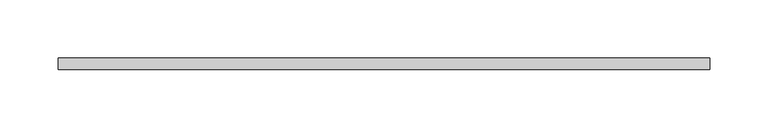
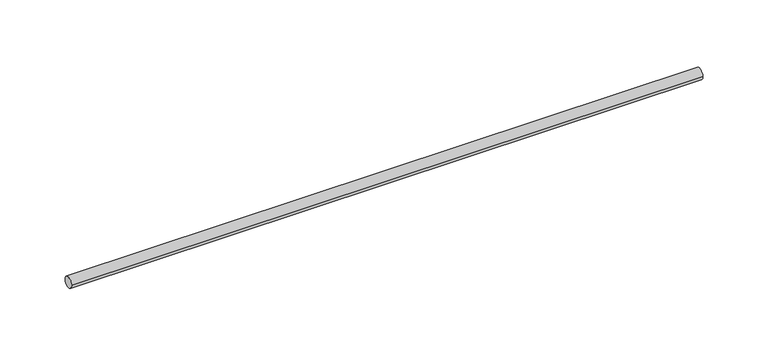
"""IFC4 building model written with IfcOpenShell, lengths in millimetres: valve geometry, Superfix Threaded Rod : Threaded Rod  Extra + -  M10 x 100."""

import ifcopenshell
import ifcopenshell.guid

model = None  # the IFC model being written
_history = None  # IfcOwnerHistory: only IFC2X3 demands one
_inside = {}  # id of a spatial element -> (the spatial element, [elements in it])
_under = {}  # id of a project, library or spatial element -> (it, [spatial elements below it])
_declared = {}  # id of a project -> (the project, [libraries it declares])
_typed = {}  # id of a type object -> (the type object, [elements of that type])
_made_of = {}  # id of a material, layer set ... -> (it, [elements and type objects made of it])


def new_model(schema):
    """Start an empty IFC model of exactly this schema.

    Asked for "IFC4X3", IfcOpenShell would pick the latest addendum, in which some entities
    have other attributes; the version numbers below select the first issue.
    IFC2X3 requires an IfcOwnerHistory on every rooted entity: one is made here for all.
    """
    global model, _history
    if schema == "IFC4X3":
        model = ifcopenshell.file(schema_version=(4, 3, 0, 0))
    else:
        model = ifcopenshell.file(schema=schema)
    _inside.clear()
    _under.clear()
    _declared.clear()
    _typed.clear()
    _made_of.clear()
    _history = None
    if model.schema == "IFC2X3":
        org = make("IfcOrganization", Name="unknown")
        user = make(
            "IfcPersonAndOrganization",
            ThePerson=make("IfcPerson", FamilyName="unknown"),
            TheOrganization=org,
        )
        app = make(
            "IfcApplication",
            ApplicationDeveloper=org,
            Version="unknown",
            ApplicationFullName="unknown",
            ApplicationIdentifier="unknown",
        )
        _history = make(
            "IfcOwnerHistory",
            OwningUser=user,
            OwningApplication=app,
            ChangeAction="ADDED",
            CreationDate=0,
        )
    return model


def make(cls, **values):
    """One entity of the class cls with the attributes given. An attribute that is None is left unset."""
    return model.create_entity(
        cls, **{name: value for name, value in values.items() if value is not None}
    )


def rooted(cls, **values):
    """An entity with a GlobalId (a new one), such as an element, a storey or a relation."""
    return make(cls, GlobalId=ifcopenshell.guid.new(), OwnerHistory=_history, **values)


def si_unit(unit_type, name, prefix=None):
    """IfcSIUnit, for example si_unit("LENGTHUNIT", "METRE", prefix="MILLI")."""
    return make("IfcSIUnit", UnitType=unit_type, Prefix=prefix, Name=name)


def assignment(units):
    """IfcUnitAssignment: the units of a project."""
    return None if units is None else make("IfcUnitAssignment", Units=units)


def point(xyz):
    """IfcCartesianPoint."""
    return None if xyz is None else make("IfcCartesianPoint", Coordinates=xyz)


def direction(xyz):
    """IfcDirection."""
    return None if xyz is None else make("IfcDirection", DirectionRatios=xyz)


def frame(location, z_axis=None, x_axis=None):
    """IfcAxis2Placement3D, a coordinate frame: its origin and axes. An axis left out is left unset."""
    return make(
        "IfcAxis2Placement3D",
        Location=point(location),
        Axis=direction(z_axis),
        RefDirection=direction(x_axis),
    )


def frame_2d(location, x_axis=None):
    """IfcAxis2Placement2D, a coordinate frame in the plane: its origin and x axis."""
    return make(
        "IfcAxis2Placement2D", Location=point(location), RefDirection=direction(x_axis)
    )


def origin():
    """The frame at (0, 0, 0) with its axes left unset."""
    return frame((0.0, 0.0, 0.0))


def origin_2d():
    """The frame at (0, 0) in the plane with its x axis left unset."""
    return frame_2d((0.0, 0.0))


def place(relative_to, where):
    """IfcLocalPlacement: puts the frame where relative to a parent placement (None: the world)."""
    return make(
        "IfcLocalPlacement", PlacementRelTo=relative_to, RelativePlacement=where
    )


def context(
    kind, dimensions, precision=None, world=None, true_north=None, identifier=None
):
    """IfcGeometricRepresentationContext, for example the 3D "Model" context."""
    return make(
        "IfcGeometricRepresentationContext",
        ContextIdentifier=identifier,
        ContextType=kind,
        CoordinateSpaceDimension=dimensions,
        Precision=precision,
        WorldCoordinateSystem=world,
        TrueNorth=true_north,
    )


def project(units=None, contexts=None):
    """IfcProject with its units and contexts."""
    return rooted(
        "IfcProject",
        Name="project",
        RepresentationContexts=contexts,
        UnitsInContext=assignment(units),
    )


def spatial(cls, under=None, at=None, **own):
    """A site, building, storey or space (cls), placed at a placement, below another one or the project."""
    s = rooted(cls, ObjectPlacement=at, **own)
    if under is not None:
        _under.setdefault(under.id(), (under, []))[1].append(s)
    return s


def circle_curve(where, radius):
    """IfcCircle in the frame where."""
    return make("IfcCircle", Position=where, Radius=radius)


def trimmed(basis, trim1, trim2, sense, master):
    """IfcTrimmedCurve: the piece of a basis curve between two trims."""
    return make(
        "IfcTrimmedCurve",
        BasisCurve=basis,
        Trim1=trim1,
        Trim2=trim2,
        SenseAgreement=sense,
        MasterRepresentation=master,
    )


def segment(curve, same_sense, transition):
    """IfcCompositeCurveSegment."""
    return make(
        "IfcCompositeCurveSegment",
        Transition=transition,
        SameSense=same_sense,
        ParentCurve=curve,
    )


def composite_curve(segments, self_intersect=None):
    """IfcCompositeCurve: segments joined end to end."""
    return make("IfcCompositeCurve", Segments=segments, SelfIntersect=self_intersect)


def outline(outer, holes=None, kind="AREA"):
    """IfcArbitraryClosedProfileDef: a profile drawn as a closed curve; with holes, ...WithVoids."""
    if holes is None:
        return make("IfcArbitraryClosedProfileDef", ProfileType=kind, OuterCurve=outer)
    return make(
        "IfcArbitraryProfileDefWithVoids",
        ProfileType=kind,
        OuterCurve=outer,
        InnerCurves=holes,
    )


def extrude(swept, where, along, depth):
    """IfcExtrudedAreaSolid: the profile swept, set in the frame where, extruded along a direction by depth."""
    return make(
        "IfcExtrudedAreaSolid",
        SweptArea=swept,
        Position=where,
        ExtrudedDirection=direction(along),
        Depth=depth,
    )


def shape(context_of_items, identifier, shape_type, items):
    """IfcShapeRepresentation: the items that make up one representation, for example the "Body"."""
    return make(
        "IfcShapeRepresentation",
        ContextOfItems=context_of_items,
        RepresentationIdentifier=identifier,
        RepresentationType=shape_type,
        Items=items,
    )


def source(mapping_origin, context_of_items, identifier, shape_type, items):
    """IfcRepresentationMap: a shape defined once, which mapped items show again and again."""
    return make(
        "IfcRepresentationMap",
        MappingOrigin=mapping_origin,
        MappedRepresentation=shape(context_of_items, identifier, shape_type, items),
    )


def transform(
    local_origin,
    x_axis=None,
    y_axis=None,
    z_axis=None,
    scale=None,
    scale2=None,
    scale3=None,
    uniform=True,
):
    """IfcCartesianTransformationOperator3D, or its non-uniform kind. x_axis, y_axis, z_axis: its Axis1, 2, 3."""
    if uniform:
        return make(
            "IfcCartesianTransformationOperator3D",
            Axis1=direction(x_axis),
            Axis2=direction(y_axis),
            LocalOrigin=point(local_origin),
            Scale=scale,
            Axis3=direction(z_axis),
        )
    return make(
        "IfcCartesianTransformationOperator3DnonUniform",
        Axis1=direction(x_axis),
        Axis2=direction(y_axis),
        LocalOrigin=point(local_origin),
        Scale=scale,
        Axis3=direction(z_axis),
        Scale2=scale2,
        Scale3=scale3,
    )


def mapped(mapping_source, mapping_target):
    """IfcMappedItem: shows the shape of a source again, moved by a transform."""
    return make(
        "IfcMappedItem", MappingSource=mapping_source, MappingTarget=mapping_target
    )


def made_of(thing, what):
    """Note that an element or type object is made of a material, layer set ...; save() writes the relation."""
    if what is not None:
        _made_of.setdefault(what.id(), (what, []))[1].append(thing)
    return thing


def element(
    cls,
    number,
    at=None,
    inside=None,
    cuts=None,
    type_object=None,
    material=None,
    context=None,
    identifier="Body",
    shape_type=None,
    held_by="IfcProductDefinitionShape",
    body=None,
    shapes=None,
    **own,
):
    """One element of the class cls, such as IfcWall. Its Tag is "e" and its number.

    at: its placement. inside: the storey or other place that contains it. cuts: it is an
    opening in that element (IfcRelVoidsElement). A single representation is given by context,
    identifier, shape_type and body (its items); several are given by shapes. held_by: the class
    of the entity that holds the representations. save() writes the other relations.
    """
    e = rooted(cls, Tag="e%d" % number, ObjectPlacement=at, **own)
    if body is not None:
        shapes = [shape(context, identifier, shape_type, body)]
    if shapes is not None:
        e.Representation = make(held_by, Representations=shapes)
    if inside is not None:
        _inside.setdefault(inside.id(), (inside, []))[1].append(e)
    if cuts is not None:
        rooted(
            "IfcRelVoidsElement", RelatingBuildingElement=cuts, RelatedOpeningElement=e
        )
    if type_object is not None:
        _typed.setdefault(type_object.id(), (type_object, []))[1].append(e)
    return made_of(e, material)


def aggregate(whole, parts):
    """IfcRelAggregates: a whole, such as a stair, and the parts it consists of."""
    return rooted("IfcRelAggregates", RelatingObject=whole, RelatedObjects=parts)


def save(model, path):
    """Write the relations noted so far, then the file.

    IfcRelAggregates (storeys below a building ...), IfcRelContainedInSpatialStructure (elements
    in a storey), IfcRelDefinesByType, IfcRelAssociatesMaterial and IfcRelDeclares: one each for
    every whole, place, type object, material and project.
    """
    for whole, parts in _under.values():
        aggregate(whole, parts)
    for where, things in _inside.values():
        rooted(
            "IfcRelContainedInSpatialStructure",
            RelatedElements=things,
            RelatingStructure=where,
        )
    for kind, things in _typed.values():
        rooted("IfcRelDefinesByType", RelatedObjects=things, RelatingType=kind)
    for what, things in _made_of.values():
        rooted("IfcRelAssociatesMaterial", RelatedObjects=things, RelatingMaterial=what)
    for by, libraries in _declared.values():
        rooted("IfcRelDeclares", RelatingContext=by, RelatedDefinitions=libraries)
    model.write(path)


def valve_923fae52(model_context):
    return source(origin(), model_context, "Body", "SweptSolid", [
        extrude(outline(composite_curve([segment(trimmed(circle_curve(origin_2d(), 5.0), [point((-5.0, 0.0))], [point((5.0, 0.0))], False, "CARTESIAN"), True, "CONTINUOUS"), segment(trimmed(circle_curve(origin_2d(), 5.0), [point((5.0, 0.0))], [point((-5.0, 0.0))], False, "CARTESIAN"), True, "CONTINUOUS")], self_intersect=False)), frame((0.0, 0.0, 0.0), z_axis=(1.0, 0.0, 0.0), x_axis=(0.0, 1.0, 0.0)), (0.0, 0.0, 1.0), 560.0),
    ])


if __name__ == "__main__":
    model = new_model("IFC4")
    model_context = context("Model", 3, world=origin())
    ifc_project = project(units=[si_unit("LENGTHUNIT", "METRE", prefix="MILLI")], contexts=[model_context])
    site = spatial("IfcSite", under=ifc_project)
    building = spatial("IfcBuilding", under=site)
    placement = place(None, origin())
    valve_shape = valve_923fae52(model_context)
    element("IfcValve", 1, ObjectType="Superfix Threaded Rod : Threaded Rod  Extra + -  M10 x 100", at=placement, inside=building, context=model_context, shape_type="MappedRepresentation", body=[
        mapped(valve_shape, transform((0.0, 0.0, 0.0), x_axis=(1.0, 0.0, 0.0), y_axis=(0.0, 1.0, 0.0), z_axis=(0.0, 0.0, 1.0))),
    ])
    save(model, "model.ifc")
